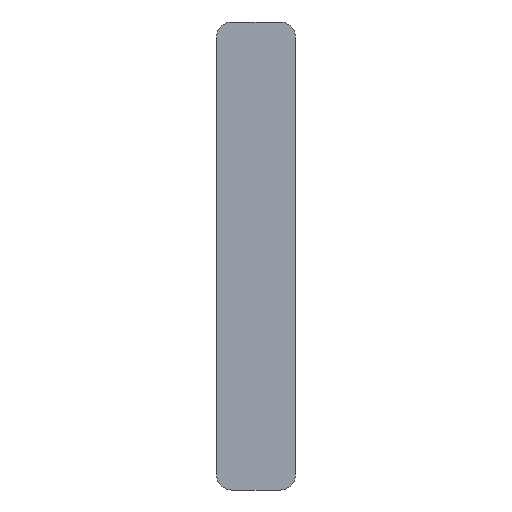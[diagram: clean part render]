
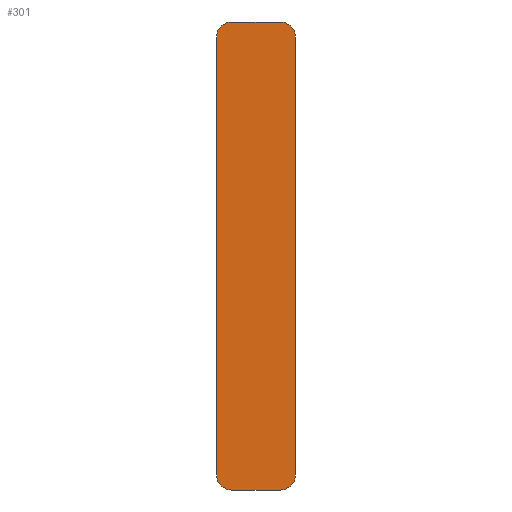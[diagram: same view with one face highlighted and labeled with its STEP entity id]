
A CAD part, front view. The second image highlights one B-rep face of the part: STEP entity #301.
In plain terms, the highlighted planar face has unit normal (0, -1, 0).
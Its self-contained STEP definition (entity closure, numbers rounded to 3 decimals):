
#22 = VERTEX_POINT('',#23);
#23 = CARTESIAN_POINT('',(-123.35,-92.6,-125.));
#32 = PLANE('',#33);
#33 = AXIS2_PLACEMENT_3D('',#34,#35,#36);
#34 = CARTESIAN_POINT('',(-123.35,-92.6,-130.));
#35 = DIRECTION('',(-1.,-0.,-0.));
#36 = DIRECTION('',(0.,0.,-1.));
#44 = CYLINDRICAL_SURFACE('',#45,5.);
#45 = AXIS2_PLACEMENT_3D('',#46,#47,#48);
#46 = CARTESIAN_POINT('',(-128.35,-92.6,-125.));
#47 = DIRECTION('',(-0.,1.,-0.));
#48 = DIRECTION('',(1.,-0.,0.));
#85 = VERTEX_POINT('',#86);
#86 = CARTESIAN_POINT('',(-123.35,-92.6,19.));
#100 = CYLINDRICAL_SURFACE('',#101,5.);
#101 = AXIS2_PLACEMENT_3D('',#102,#103,#104);
#102 = CARTESIAN_POINT('',(-128.35,-92.6,19.));
#103 = DIRECTION('',(-0.,1.,-0.));
#104 = DIRECTION('',(1.,-0.,0.));
#112 = EDGE_CURVE('',#22,#85,#113,.T.);
#113 = SURFACE_CURVE('',#114,(#118,#125),.PCURVE_S1.);
#114 = LINE('',#115,#116);
#115 = CARTESIAN_POINT('',(-123.35,-92.6,-130.));
#116 = VECTOR('',#117,1.);
#117 = DIRECTION('',(-0.,-0.,1.));
#118 = PCURVE('',#32,#119);
#119 = DEFINITIONAL_REPRESENTATION('',(#120),#124);
#120 = LINE('',#121,#122);
#121 = CARTESIAN_POINT('',(-0.,-0.));
#122 = VECTOR('',#123,1.);
#123 = DIRECTION('',(-1.,-0.));
#124 = ( GEOMETRIC_REPRESENTATION_CONTEXT(2) 
PARAMETRIC_REPRESENTATION_CONTEXT() REPRESENTATION_CONTEXT('2D SPACE',''
  ) );
#125 = PCURVE('',#126,#131);
#126 = PLANE('',#127);
#127 = AXIS2_PLACEMENT_3D('',#128,#129,#130);
#128 = CARTESIAN_POINT('',(-123.35,-92.6,-130.));
#129 = DIRECTION('',(-0.,1.,-0.));
#130 = DIRECTION('',(0.,0.,-1.));
#131 = DEFINITIONAL_REPRESENTATION('',(#132),#136);
#132 = LINE('',#133,#134);
#133 = CARTESIAN_POINT('',(-0.,-0.));
#134 = VECTOR('',#135,1.);
#135 = DIRECTION('',(-1.,0.));
#136 = ( GEOMETRIC_REPRESENTATION_CONTEXT(2) 
PARAMETRIC_REPRESENTATION_CONTEXT() REPRESENTATION_CONTEXT('2D SPACE',''
  ) );
#142 = EDGE_CURVE('',#22,#143,#145,.T.);
#143 = VERTEX_POINT('',#144);
#144 = CARTESIAN_POINT('',(-128.35,-92.6,-130.));
#145 = SURFACE_CURVE('',#146,(#151,#158),.PCURVE_S1.);
#146 = CIRCLE('',#147,5.);
#147 = AXIS2_PLACEMENT_3D('',#148,#149,#150);
#148 = CARTESIAN_POINT('',(-128.35,-92.6,-125.));
#149 = DIRECTION('',(0.,1.,0.));
#150 = DIRECTION('',(-0.,-0.,1.));
#151 = PCURVE('',#44,#152);
#152 = DEFINITIONAL_REPRESENTATION('',(#153),#157);
#153 = LINE('',#154,#155);
#154 = CARTESIAN_POINT('',(-1.571,0.));
#155 = VECTOR('',#156,1.);
#156 = DIRECTION('',(1.,0.));
#157 = ( GEOMETRIC_REPRESENTATION_CONTEXT(2) 
PARAMETRIC_REPRESENTATION_CONTEXT() REPRESENTATION_CONTEXT('2D SPACE',''
  ) );
#158 = PCURVE('',#126,#159);
#159 = DEFINITIONAL_REPRESENTATION('',(#160),#164);
#160 = CIRCLE('',#161,5.);
#161 = AXIS2_PLACEMENT_2D('',#162,#163);
#162 = CARTESIAN_POINT('',(-5.,5.));
#163 = DIRECTION('',(-1.,-0.));
#164 = ( GEOMETRIC_REPRESENTATION_CONTEXT(2) 
PARAMETRIC_REPRESENTATION_CONTEXT() REPRESENTATION_CONTEXT('2D SPACE',''
  ) );
#182 = PLANE('',#183);
#183 = AXIS2_PLACEMENT_3D('',#184,#185,#186);
#184 = CARTESIAN_POINT('',(-123.35,-92.6,-130.));
#185 = DIRECTION('',(-0.,-0.,1.));
#186 = DIRECTION('',(1.,0.,0.));
#301 = ADVANCED_FACE('',(#302),#126,.F.);
#302 = FACE_BOUND('',#303,.T.);
#303 = EDGE_LOOP('',(#304,#327,#328,#329,#357,#385,#414,#442));
#304 = ORIENTED_EDGE('',*,*,#305,.F.);
#305 = EDGE_CURVE('',#143,#306,#308,.T.);
#306 = VERTEX_POINT('',#307);
#307 = CARTESIAN_POINT('',(-144.35,-92.6,-130.));
#308 = SURFACE_CURVE('',#309,(#313,#320),.PCURVE_S1.);
#309 = LINE('',#310,#311);
#310 = CARTESIAN_POINT('',(-123.35,-92.6,-130.));
#311 = VECTOR('',#312,1.);
#312 = DIRECTION('',(-1.,-0.,-0.));
#313 = PCURVE('',#126,#314);
#314 = DEFINITIONAL_REPRESENTATION('',(#315),#319);
#315 = LINE('',#316,#317);
#316 = CARTESIAN_POINT('',(-0.,-0.));
#317 = VECTOR('',#318,1.);
#318 = DIRECTION('',(-0.,1.));
#319 = ( GEOMETRIC_REPRESENTATION_CONTEXT(2) 
PARAMETRIC_REPRESENTATION_CONTEXT() REPRESENTATION_CONTEXT('2D SPACE',''
  ) );
#320 = PCURVE('',#182,#321);
#321 = DEFINITIONAL_REPRESENTATION('',(#322),#326);
#322 = LINE('',#323,#324);
#323 = CARTESIAN_POINT('',(0.,-0.));
#324 = VECTOR('',#325,1.);
#325 = DIRECTION('',(-1.,0.));
#326 = ( GEOMETRIC_REPRESENTATION_CONTEXT(2) 
PARAMETRIC_REPRESENTATION_CONTEXT() REPRESENTATION_CONTEXT('2D SPACE',''
  ) );
#327 = ORIENTED_EDGE('',*,*,#142,.F.);
#328 = ORIENTED_EDGE('',*,*,#112,.T.);
#329 = ORIENTED_EDGE('',*,*,#330,.T.);
#330 = EDGE_CURVE('',#85,#331,#333,.T.);
#331 = VERTEX_POINT('',#332);
#332 = CARTESIAN_POINT('',(-128.35,-92.6,24.));
#333 = SURFACE_CURVE('',#334,(#339,#350),.PCURVE_S1.);
#334 = CIRCLE('',#335,5.);
#335 = AXIS2_PLACEMENT_3D('',#336,#337,#338);
#336 = CARTESIAN_POINT('',(-128.35,-92.6,19.));
#337 = DIRECTION('',(0.,-1.,0.));
#338 = DIRECTION('',(-0.,-0.,1.));
#339 = PCURVE('',#126,#340);
#340 = DEFINITIONAL_REPRESENTATION('',(#341),#349);
#341 = ( BOUNDED_CURVE() B_SPLINE_CURVE(2,(#342,#343,#344,#345,#346,#347
,#348),.UNSPECIFIED.,.T.,.F.) B_SPLINE_CURVE_WITH_KNOTS((1,2,2,2,2,1),(
    -2.094,0.,2.094,4.189,6.283,
8.378),.UNSPECIFIED.) CURVE() GEOMETRIC_REPRESENTATION_ITEM() 
RATIONAL_B_SPLINE_CURVE((1.,0.5,1.,0.5,1.,0.5,1.)) REPRESENTATION_ITEM(
  '') );
#342 = CARTESIAN_POINT('',(-154.,5.));
#343 = CARTESIAN_POINT('',(-154.,13.66));
#344 = CARTESIAN_POINT('',(-146.5,9.33));
#345 = CARTESIAN_POINT('',(-139.,5.));
#346 = CARTESIAN_POINT('',(-146.5,0.67));
#347 = CARTESIAN_POINT('',(-154.,-3.66));
#348 = CARTESIAN_POINT('',(-154.,5.));
#349 = ( GEOMETRIC_REPRESENTATION_CONTEXT(2) 
PARAMETRIC_REPRESENTATION_CONTEXT() REPRESENTATION_CONTEXT('2D SPACE',''
  ) );
#350 = PCURVE('',#100,#351);
#351 = DEFINITIONAL_REPRESENTATION('',(#352),#356);
#352 = LINE('',#353,#354);
#353 = CARTESIAN_POINT('',(4.712,-0.));
#354 = VECTOR('',#355,1.);
#355 = DIRECTION('',(-1.,0.));
#356 = ( GEOMETRIC_REPRESENTATION_CONTEXT(2) 
PARAMETRIC_REPRESENTATION_CONTEXT() REPRESENTATION_CONTEXT('2D SPACE',''
  ) );
#357 = ORIENTED_EDGE('',*,*,#358,.T.);
#358 = EDGE_CURVE('',#331,#359,#361,.T.);
#359 = VERTEX_POINT('',#360);
#360 = CARTESIAN_POINT('',(-144.35,-92.6,24.));
#361 = SURFACE_CURVE('',#362,(#366,#373),.PCURVE_S1.);
#362 = LINE('',#363,#364);
#363 = CARTESIAN_POINT('',(-123.35,-92.6,24.));
#364 = VECTOR('',#365,1.);
#365 = DIRECTION('',(-1.,-0.,-0.));
#366 = PCURVE('',#126,#367);
#367 = DEFINITIONAL_REPRESENTATION('',(#368),#372);
#368 = LINE('',#369,#370);
#369 = CARTESIAN_POINT('',(-154.,-0.));
#370 = VECTOR('',#371,1.);
#371 = DIRECTION('',(-0.,1.));
#372 = ( GEOMETRIC_REPRESENTATION_CONTEXT(2) 
PARAMETRIC_REPRESENTATION_CONTEXT() REPRESENTATION_CONTEXT('2D SPACE',''
  ) );
#373 = PCURVE('',#374,#379);
#374 = PLANE('',#375);
#375 = AXIS2_PLACEMENT_3D('',#376,#377,#378);
#376 = CARTESIAN_POINT('',(-123.35,-92.6,24.));
#377 = DIRECTION('',(-0.,-0.,1.));
#378 = DIRECTION('',(1.,0.,0.));
#379 = DEFINITIONAL_REPRESENTATION('',(#380),#384);
#380 = LINE('',#381,#382);
#381 = CARTESIAN_POINT('',(0.,-0.));
#382 = VECTOR('',#383,1.);
#383 = DIRECTION('',(-1.,0.));
#384 = ( GEOMETRIC_REPRESENTATION_CONTEXT(2) 
PARAMETRIC_REPRESENTATION_CONTEXT() REPRESENTATION_CONTEXT('2D SPACE',''
  ) );
#385 = ORIENTED_EDGE('',*,*,#386,.F.);
#386 = EDGE_CURVE('',#387,#359,#389,.T.);
#387 = VERTEX_POINT('',#388);
#388 = CARTESIAN_POINT('',(-149.35,-92.6,19.));
#389 = SURFACE_CURVE('',#390,(#395,#402),.PCURVE_S1.);
#390 = CIRCLE('',#391,5.);
#391 = AXIS2_PLACEMENT_3D('',#392,#393,#394);
#392 = CARTESIAN_POINT('',(-144.35,-92.6,19.));
#393 = DIRECTION('',(0.,1.,0.));
#394 = DIRECTION('',(-0.,-0.,1.));
#395 = PCURVE('',#126,#396);
#396 = DEFINITIONAL_REPRESENTATION('',(#397),#401);
#397 = CIRCLE('',#398,5.);
#398 = AXIS2_PLACEMENT_2D('',#399,#400);
#399 = CARTESIAN_POINT('',(-149.,21.));
#400 = DIRECTION('',(-1.,-0.));
#401 = ( GEOMETRIC_REPRESENTATION_CONTEXT(2) 
PARAMETRIC_REPRESENTATION_CONTEXT() REPRESENTATION_CONTEXT('2D SPACE',''
  ) );
#402 = PCURVE('',#403,#408);
#403 = CYLINDRICAL_SURFACE('',#404,5.);
#404 = AXIS2_PLACEMENT_3D('',#405,#406,#407);
#405 = CARTESIAN_POINT('',(-144.35,-92.6,19.));
#406 = DIRECTION('',(-0.,1.,-0.));
#407 = DIRECTION('',(-1.,-0.,-0.));
#408 = DEFINITIONAL_REPRESENTATION('',(#409),#413);
#409 = LINE('',#410,#411);
#410 = CARTESIAN_POINT('',(-4.712,0.));
#411 = VECTOR('',#412,1.);
#412 = DIRECTION('',(1.,0.));
#413 = ( GEOMETRIC_REPRESENTATION_CONTEXT(2) 
PARAMETRIC_REPRESENTATION_CONTEXT() REPRESENTATION_CONTEXT('2D SPACE',''
  ) );
#414 = ORIENTED_EDGE('',*,*,#415,.F.);
#415 = EDGE_CURVE('',#416,#387,#418,.T.);
#416 = VERTEX_POINT('',#417);
#417 = CARTESIAN_POINT('',(-149.35,-92.6,-125.));
#418 = SURFACE_CURVE('',#419,(#423,#430),.PCURVE_S1.);
#419 = LINE('',#420,#421);
#420 = CARTESIAN_POINT('',(-149.35,-92.6,-130.));
#421 = VECTOR('',#422,1.);
#422 = DIRECTION('',(-0.,-0.,1.));
#423 = PCURVE('',#126,#424);
#424 = DEFINITIONAL_REPRESENTATION('',(#425),#429);
#425 = LINE('',#426,#427);
#426 = CARTESIAN_POINT('',(-0.,26.));
#427 = VECTOR('',#428,1.);
#428 = DIRECTION('',(-1.,0.));
#429 = ( GEOMETRIC_REPRESENTATION_CONTEXT(2) 
PARAMETRIC_REPRESENTATION_CONTEXT() REPRESENTATION_CONTEXT('2D SPACE',''
  ) );
#430 = PCURVE('',#431,#436);
#431 = PLANE('',#432);
#432 = AXIS2_PLACEMENT_3D('',#433,#434,#435);
#433 = CARTESIAN_POINT('',(-149.35,-92.6,-130.));
#434 = DIRECTION('',(-1.,-0.,-0.));
#435 = DIRECTION('',(0.,0.,-1.));
#436 = DEFINITIONAL_REPRESENTATION('',(#437),#441);
#437 = LINE('',#438,#439);
#438 = CARTESIAN_POINT('',(-0.,-0.));
#439 = VECTOR('',#440,1.);
#440 = DIRECTION('',(-1.,-0.));
#441 = ( GEOMETRIC_REPRESENTATION_CONTEXT(2) 
PARAMETRIC_REPRESENTATION_CONTEXT() REPRESENTATION_CONTEXT('2D SPACE',''
  ) );
#442 = ORIENTED_EDGE('',*,*,#443,.T.);
#443 = EDGE_CURVE('',#416,#306,#444,.T.);
#444 = SURFACE_CURVE('',#445,(#450,#461),.PCURVE_S1.);
#445 = CIRCLE('',#446,5.);
#446 = AXIS2_PLACEMENT_3D('',#447,#448,#449);
#447 = CARTESIAN_POINT('',(-144.35,-92.6,-125.));
#448 = DIRECTION('',(0.,-1.,0.));
#449 = DIRECTION('',(-0.,-0.,1.));
#450 = PCURVE('',#126,#451);
#451 = DEFINITIONAL_REPRESENTATION('',(#452),#460);
#452 = ( BOUNDED_CURVE() B_SPLINE_CURVE(2,(#453,#454,#455,#456,#457,#458
,#459),.UNSPECIFIED.,.T.,.F.) B_SPLINE_CURVE_WITH_KNOTS((1,2,2,2,2,1),(
    -2.094,0.,2.094,4.189,6.283,
8.378),.UNSPECIFIED.) CURVE() GEOMETRIC_REPRESENTATION_ITEM() 
RATIONAL_B_SPLINE_CURVE((1.,0.5,1.,0.5,1.,0.5,1.)) REPRESENTATION_ITEM(
  '') );
#453 = CARTESIAN_POINT('',(-10.,21.));
#454 = CARTESIAN_POINT('',(-10.,29.66));
#455 = CARTESIAN_POINT('',(-2.5,25.33));
#456 = CARTESIAN_POINT('',(5.,21.));
#457 = CARTESIAN_POINT('',(-2.5,16.67));
#458 = CARTESIAN_POINT('',(-10.,12.34));
#459 = CARTESIAN_POINT('',(-10.,21.));
#460 = ( GEOMETRIC_REPRESENTATION_CONTEXT(2) 
PARAMETRIC_REPRESENTATION_CONTEXT() REPRESENTATION_CONTEXT('2D SPACE',''
  ) );
#461 = PCURVE('',#462,#467);
#462 = CYLINDRICAL_SURFACE('',#463,5.);
#463 = AXIS2_PLACEMENT_3D('',#464,#465,#466);
#464 = CARTESIAN_POINT('',(-144.35,-92.6,-125.));
#465 = DIRECTION('',(-0.,1.,-0.));
#466 = DIRECTION('',(-1.,-0.,-0.));
#467 = DEFINITIONAL_REPRESENTATION('',(#468),#472);
#468 = LINE('',#469,#470);
#469 = CARTESIAN_POINT('',(1.571,-0.));
#470 = VECTOR('',#471,1.);
#471 = DIRECTION('',(-1.,0.));
#472 = ( GEOMETRIC_REPRESENTATION_CONTEXT(2) 
PARAMETRIC_REPRESENTATION_CONTEXT() REPRESENTATION_CONTEXT('2D SPACE',''
  ) );
